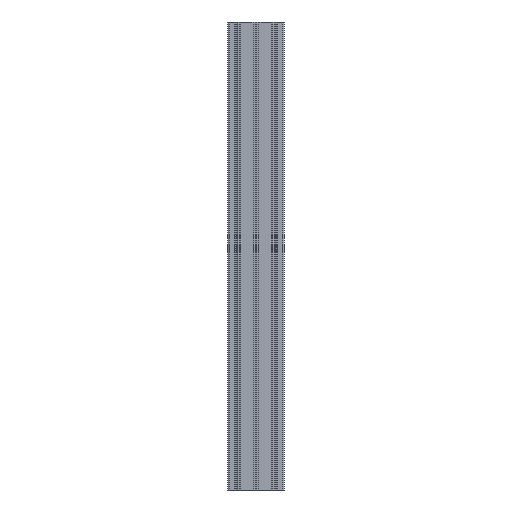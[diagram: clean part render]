
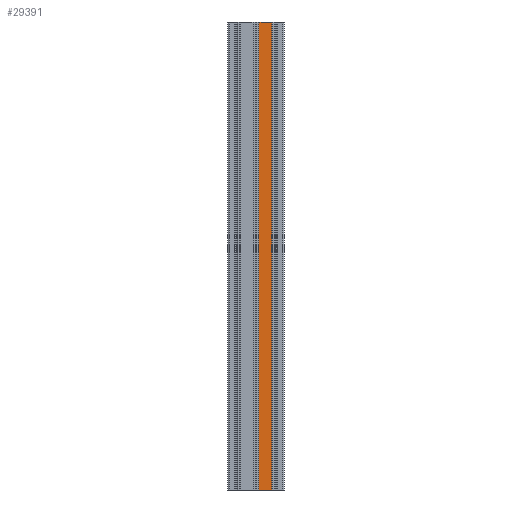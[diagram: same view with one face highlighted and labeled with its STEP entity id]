
A CAD part, front view. The second image highlights one B-rep face of the part: STEP entity #29391.
In plain terms, the highlighted planar face has unit normal (0, -1, 0).
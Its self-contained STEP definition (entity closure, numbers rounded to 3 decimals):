
#582 = LINE ( 'NONE', #2600, #22510 ) ;
#892 = ORIENTED_EDGE ( 'NONE', *, *, #31117, .F. ) ;
#1581 = VERTEX_POINT ( 'NONE', #22808 ) ;
#1689 = VECTOR ( 'NONE', #34154, 1000. ) ;
#2600 = CARTESIAN_POINT ( 'NONE',  ( 46.2, -60., 0. ) ) ;
#2901 = ORIENTED_EDGE ( 'NONE', *, *, #17045, .T. ) ;
#4934 = CARTESIAN_POINT ( 'NONE',  ( 46.2, -60., -1000. ) ) ;
#5400 = EDGE_LOOP ( 'NONE', ( #6466, #892, #2901, #23047 ) ) ;
#6466 = ORIENTED_EDGE ( 'NONE', *, *, #31991, .F. ) ;
#7306 = CARTESIAN_POINT ( 'NONE',  ( 46.2, -60., -1000. ) ) ;
#8526 = CARTESIAN_POINT ( 'NONE',  ( 46.2, -60., -1000. ) ) ;
#8540 = AXIS2_PLACEMENT_3D ( 'NONE', #7306, #30170, #13067 ) ;
#9331 = LINE ( 'NONE', #8526, #1689 ) ;
#9415 = VERTEX_POINT ( 'NONE', #28455 ) ;
#9572 = VERTEX_POINT ( 'NONE', #14935 ) ;
#10172 = CARTESIAN_POINT ( 'NONE',  ( 73.7, -60., -1000. ) ) ;
#13067 = DIRECTION ( 'NONE',  ( 0., 0., -1. ) ) ;
#13951 = DIRECTION ( 'NONE',  ( 0., 0., 1. ) ) ;
#14935 = CARTESIAN_POINT ( 'NONE',  ( 73.7, -60., 0. ) ) ;
#16289 = DIRECTION ( 'NONE',  ( 0., 0., 1. ) ) ;
#16832 = VERTEX_POINT ( 'NONE', #10172 ) ;
#17045 = EDGE_CURVE ( 'NONE', #1581, #16832, #9331, .T. ) ;
#21158 = VECTOR ( 'NONE', #16289, 1000. ) ;
#22510 = VECTOR ( 'NONE', #36861, 1000. ) ;
#22808 = CARTESIAN_POINT ( 'NONE',  ( 46.2, -60., -1000. ) ) ;
#23047 = ORIENTED_EDGE ( 'NONE', *, *, #32466, .T. ) ;
#24417 = PLANE ( 'NONE',  #8540 ) ;
#28213 = CARTESIAN_POINT ( 'NONE',  ( 73.7, -60., -1000. ) ) ;
#28299 = VECTOR ( 'NONE', #13951, 1000. ) ;
#28455 = CARTESIAN_POINT ( 'NONE',  ( 46.2, -60., 0. ) ) ;
#28952 = FACE_OUTER_BOUND ( 'NONE', #5400, .T. ) ;
#29391 = ADVANCED_FACE ( 'NONE', ( #28952 ), #24417, .T. ) ;
#30170 = DIRECTION ( 'NONE',  ( 0., -1., 0. ) ) ;
#31117 = EDGE_CURVE ( 'NONE', #1581, #9415, #36385, .T. ) ;
#31991 = EDGE_CURVE ( 'NONE', #9415, #9572, #582, .T. ) ;
#32466 = EDGE_CURVE ( 'NONE', #16832, #9572, #36790, .T. ) ;
#34154 = DIRECTION ( 'NONE',  ( 1., 0., 0. ) ) ;
#36385 = LINE ( 'NONE', #4934, #21158 ) ;
#36790 = LINE ( 'NONE', #28213, #28299 ) ;
#36861 = DIRECTION ( 'NONE',  ( 1., 0., 0. ) ) ;
